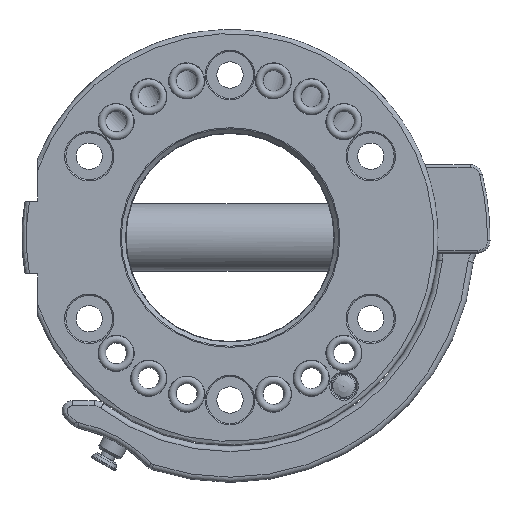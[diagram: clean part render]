
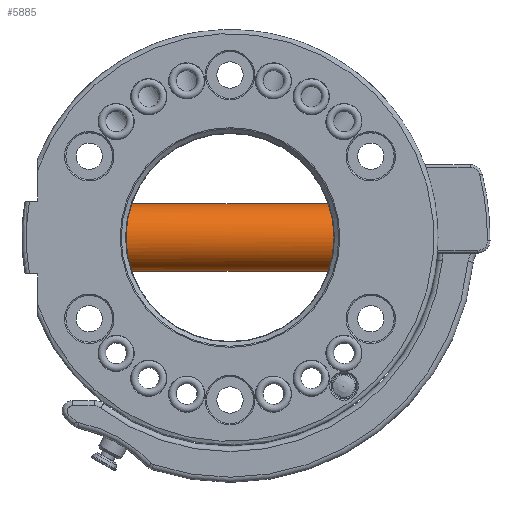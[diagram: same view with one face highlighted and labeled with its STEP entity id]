
A CAD part, front view. The second image highlights one B-rep face of the part: STEP entity #5885.
In plain terms, the highlighted cylindrical face has radius 13 mm (diameter 26 mm), a full revolution.
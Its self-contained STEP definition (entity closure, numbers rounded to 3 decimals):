
#254=LINE('',#10182,#485);
#485=VECTOR('',#7720,13.);
#695=CYLINDRICAL_SURFACE('',#6461,13.);
#972=FACE_OUTER_BOUND('',#1312,.T.);
#1312=EDGE_LOOP('',(#4237,#4238,#4239,#4240,#4241,#4242));
#1634=B_SPLINE_CURVE_WITH_KNOTS('',3,(#10171,#10172,#10173,#10174,#10175,
#10176,#10177,#10178,#10179,#10180),.UNSPECIFIED.,.F.,.F.,(4,2,2,2,4),(0.,
0.494,0.987,1.481,1.974),
 .UNSPECIFIED.);
#1635=B_SPLINE_CURVE_WITH_KNOTS('',3,(#10183,#10184,#10185,#10186,#10187,
#10188,#10189,#10190,#10191,#10192,#10193,#10194,#10195,#10196,#10197,#10198,
#10199,#10200,#10201,#10202,#10203,#10204,#10205,#10206,#10207,#10208,#10209,
#10210,#10211,#10212,#10213,#10214,#10215,#10216),.UNSPECIFIED.,.T.,.F.,
(4,2,2,2,2,2,2,2,2,2,2,2,2,2,2,2,4),(0.,0.494,0.987,
1.481,1.974,2.468,2.961,3.455,
3.949,4.442,4.936,5.43,5.923,
6.417,6.91,7.404,7.897),
 .UNSPECIFIED.);
#1636=B_SPLINE_CURVE_WITH_KNOTS('',3,(#10218,#10219,#10220,#10221,#10222,
#10223,#10224,#10225,#10226,#10227),.UNSPECIFIED.,.F.,.F.,(4,2,2,2,4),(5.923,
6.417,6.91,7.404,7.897),
 .UNSPECIFIED.);
#1637=B_SPLINE_CURVE_WITH_KNOTS('',3,(#10228,#10229,#10230,#10231,#10232,
#10233,#10234,#10235,#10236,#10237,#10238,#10239,#10240,#10241,#10242,#10243,
#10244,#10245),.UNSPECIFIED.,.F.,.F.,(4,2,2,2,2,2,2,2,4),(1.974,
2.468,2.961,3.455,3.949,4.442,
4.936,5.43,5.923),.UNSPECIFIED.);
#2445=VERTEX_POINT('',#10169);
#2446=VERTEX_POINT('',#10170);
#2447=VERTEX_POINT('',#10181);
#2448=VERTEX_POINT('',#10217);
#3134=EDGE_CURVE('',#2445,#2446,#1634,.T.);
#3135=EDGE_CURVE('',#2445,#2447,#254,.T.);
#3136=EDGE_CURVE('',#2447,#2447,#1635,.T.);
#3137=EDGE_CURVE('',#2448,#2445,#1636,.T.);
#3138=EDGE_CURVE('',#2446,#2448,#1637,.T.);
#4237=ORIENTED_EDGE('',*,*,#3134,.F.);
#4238=ORIENTED_EDGE('',*,*,#3135,.T.);
#4239=ORIENTED_EDGE('',*,*,#3136,.F.);
#4240=ORIENTED_EDGE('',*,*,#3135,.F.);
#4241=ORIENTED_EDGE('',*,*,#3137,.F.);
#4242=ORIENTED_EDGE('',*,*,#3138,.F.);
#5885=ADVANCED_FACE('',(#972),#695,.T.);
#6461=AXIS2_PLACEMENT_3D('',#10168,#7718,#7719);
#7718=DIRECTION('center_axis',(1.,0.,0.));
#7719=DIRECTION('ref_axis',(0.,0.,1.));
#7720=DIRECTION('',(-1.,0.,0.));
#10168=CARTESIAN_POINT('Origin',(53.61,-2.231,0.));
#10169=CARTESIAN_POINT('',(50.439,-2.231,-13.));
#10170=CARTESIAN_POINT('',(52.61,10.769,0.));
#10171=CARTESIAN_POINT('Ctrl Pts',(50.439,-2.231,-13.));
#10172=CARTESIAN_POINT('Ctrl Pts',(50.439,-0.585,-13.));
#10173=CARTESIAN_POINT('Ctrl Pts',(50.558,1.161,-12.669));
#10174=CARTESIAN_POINT('Ctrl Pts',(50.976,4.36,-11.338));
#10175=CARTESIAN_POINT('Ctrl Pts',(51.269,5.814,-10.34));
#10176=CARTESIAN_POINT('Ctrl Pts',(51.811,8.109,-8.045));
#10177=CARTESIAN_POINT('Ctrl Pts',(52.097,9.108,-6.591));
#10178=CARTESIAN_POINT('Ctrl Pts',(52.499,10.438,-3.392));
#10179=CARTESIAN_POINT('Ctrl Pts',(52.61,10.769,-1.645));
#10180=CARTESIAN_POINT('Ctrl Pts',(52.61,10.769,0.));
#10181=CARTESIAN_POINT('',(-25.218,-2.231,-13.));
#10182=CARTESIAN_POINT('',(53.61,-2.231,-13.));
#10183=CARTESIAN_POINT('Ctrl Pts',(-25.218,-2.231,
-13.));
#10184=CARTESIAN_POINT('Ctrl Pts',(-25.218,-3.876,
-13.));
#10185=CARTESIAN_POINT('Ctrl Pts',(-25.337,-5.623,
-12.669));
#10186=CARTESIAN_POINT('Ctrl Pts',(-25.755,-8.822,
-11.338));
#10187=CARTESIAN_POINT('Ctrl Pts',(-26.048,-10.275,
-10.34));
#10188=CARTESIAN_POINT('Ctrl Pts',(-26.59,-12.57,
-8.045));
#10189=CARTESIAN_POINT('Ctrl Pts',(-26.876,-13.569,
-6.591));
#10190=CARTESIAN_POINT('Ctrl Pts',(-27.278,-14.899,
-3.392));
#10191=CARTESIAN_POINT('Ctrl Pts',(-27.39,-15.231,
-1.645));
#10192=CARTESIAN_POINT('Ctrl Pts',(-27.39,-15.231,
1.645));
#10193=CARTESIAN_POINT('Ctrl Pts',(-27.278,-14.899,
3.392));
#10194=CARTESIAN_POINT('Ctrl Pts',(-26.876,-13.569,
6.591));
#10195=CARTESIAN_POINT('Ctrl Pts',(-26.59,-12.57,
8.045));
#10196=CARTESIAN_POINT('Ctrl Pts',(-26.048,-10.275,
10.34));
#10197=CARTESIAN_POINT('Ctrl Pts',(-25.755,-8.822,
11.338));
#10198=CARTESIAN_POINT('Ctrl Pts',(-25.337,-5.623,
12.669));
#10199=CARTESIAN_POINT('Ctrl Pts',(-25.218,-3.876,
13.));
#10200=CARTESIAN_POINT('Ctrl Pts',(-25.218,-0.585,
13.));
#10201=CARTESIAN_POINT('Ctrl Pts',(-25.337,1.161,12.669));
#10202=CARTESIAN_POINT('Ctrl Pts',(-25.755,4.36,11.338));
#10203=CARTESIAN_POINT('Ctrl Pts',(-26.048,5.814,10.34));
#10204=CARTESIAN_POINT('Ctrl Pts',(-26.59,8.109,8.045));
#10205=CARTESIAN_POINT('Ctrl Pts',(-26.876,9.108,6.591));
#10206=CARTESIAN_POINT('Ctrl Pts',(-27.278,10.438,3.392));
#10207=CARTESIAN_POINT('Ctrl Pts',(-27.39,10.769,1.645));
#10208=CARTESIAN_POINT('Ctrl Pts',(-27.39,10.769,-1.645));
#10209=CARTESIAN_POINT('Ctrl Pts',(-27.278,10.438,-3.392));
#10210=CARTESIAN_POINT('Ctrl Pts',(-26.876,9.108,-6.591));
#10211=CARTESIAN_POINT('Ctrl Pts',(-26.59,8.109,-8.045));
#10212=CARTESIAN_POINT('Ctrl Pts',(-26.048,5.814,-10.34));
#10213=CARTESIAN_POINT('Ctrl Pts',(-25.755,4.36,-11.338));
#10214=CARTESIAN_POINT('Ctrl Pts',(-25.337,1.161,-12.669));
#10215=CARTESIAN_POINT('Ctrl Pts',(-25.218,-0.585,
-13.));
#10216=CARTESIAN_POINT('Ctrl Pts',(-25.218,-2.231,
-13.));
#10217=CARTESIAN_POINT('',(52.61,-15.231,0.));
#10218=CARTESIAN_POINT('Ctrl Pts',(52.61,-15.231,0.));
#10219=CARTESIAN_POINT('Ctrl Pts',(52.61,-15.231,-1.645));
#10220=CARTESIAN_POINT('Ctrl Pts',(52.499,-14.899,-3.392));
#10221=CARTESIAN_POINT('Ctrl Pts',(52.097,-13.569,-6.591));
#10222=CARTESIAN_POINT('Ctrl Pts',(51.811,-12.57,-8.045));
#10223=CARTESIAN_POINT('Ctrl Pts',(51.269,-10.275,-10.34));
#10224=CARTESIAN_POINT('Ctrl Pts',(50.976,-8.822,-11.338));
#10225=CARTESIAN_POINT('Ctrl Pts',(50.558,-5.623,-12.669));
#10226=CARTESIAN_POINT('Ctrl Pts',(50.439,-3.876,-13.));
#10227=CARTESIAN_POINT('Ctrl Pts',(50.439,-2.231,-13.));
#10228=CARTESIAN_POINT('Ctrl Pts',(52.61,10.769,0.));
#10229=CARTESIAN_POINT('Ctrl Pts',(52.61,10.769,1.645));
#10230=CARTESIAN_POINT('Ctrl Pts',(52.499,10.438,3.392));
#10231=CARTESIAN_POINT('Ctrl Pts',(52.097,9.108,6.591));
#10232=CARTESIAN_POINT('Ctrl Pts',(51.811,8.109,8.045));
#10233=CARTESIAN_POINT('Ctrl Pts',(51.269,5.814,10.34));
#10234=CARTESIAN_POINT('Ctrl Pts',(50.976,4.36,11.338));
#10235=CARTESIAN_POINT('Ctrl Pts',(50.558,1.161,12.669));
#10236=CARTESIAN_POINT('Ctrl Pts',(50.439,-0.585,13.));
#10237=CARTESIAN_POINT('Ctrl Pts',(50.439,-3.876,13.));
#10238=CARTESIAN_POINT('Ctrl Pts',(50.558,-5.623,12.669));
#10239=CARTESIAN_POINT('Ctrl Pts',(50.976,-8.822,11.338));
#10240=CARTESIAN_POINT('Ctrl Pts',(51.269,-10.275,10.34));
#10241=CARTESIAN_POINT('Ctrl Pts',(51.811,-12.57,8.045));
#10242=CARTESIAN_POINT('Ctrl Pts',(52.097,-13.569,6.591));
#10243=CARTESIAN_POINT('Ctrl Pts',(52.499,-14.899,3.392));
#10244=CARTESIAN_POINT('Ctrl Pts',(52.61,-15.231,1.645));
#10245=CARTESIAN_POINT('Ctrl Pts',(52.61,-15.231,0.));
